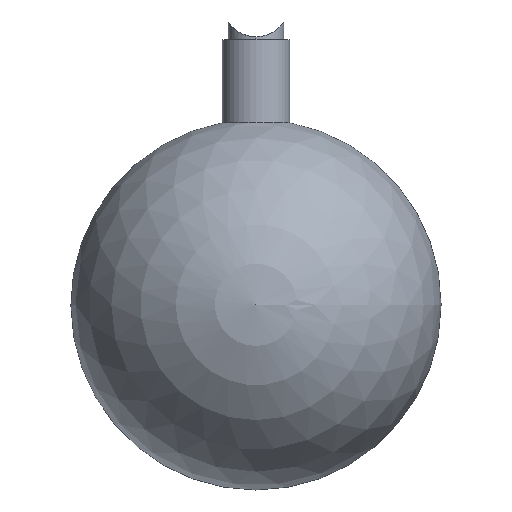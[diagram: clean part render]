
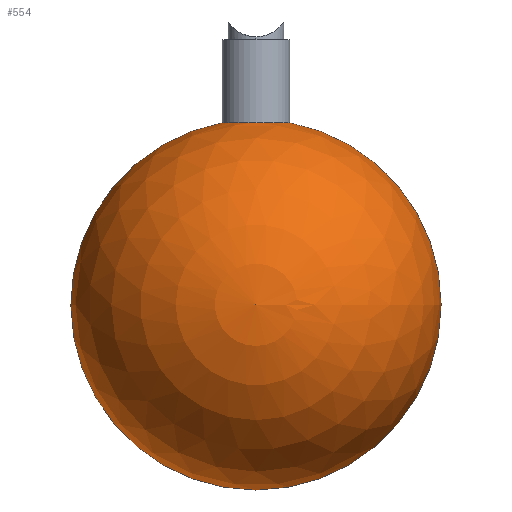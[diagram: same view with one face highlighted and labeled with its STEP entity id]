
A CAD part, left-side view. The second image highlights one B-rep face of the part: STEP entity #554.
In plain terms, the highlighted spherical face has radius 55 mm.
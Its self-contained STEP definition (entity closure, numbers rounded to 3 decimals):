
#6 = CARTESIAN_POINT ( 'NONE',  ( 0., 0., -67.583 ) ) ;
#12 = CARTESIAN_POINT ( 'NONE',  ( 0., 10., -13.5 ) ) ;
#42 = AXIS2_PLACEMENT_3D ( 'NONE', #375, #561, #179 ) ;
#43 = DIRECTION ( 'NONE',  ( 0., -1., 0. ) ) ;
#60 = DIRECTION ( 'NONE',  ( 0., 0., 1. ) ) ;
#74 = CARTESIAN_POINT ( 'NONE',  ( 0., -10., -13.5 ) ) ;
#177 = AXIS2_PLACEMENT_3D ( 'NONE', #308, #498, #60 ) ;
#179 = DIRECTION ( 'NONE',  ( 0., -1., 0. ) ) ;
#190 = CARTESIAN_POINT ( 'NONE',  ( 0., 0., -122.583 ) ) ;
#226 = EDGE_LOOP ( 'NONE', ( #448, #785, #488 ) ) ;
#239 = EDGE_CURVE ( 'NONE', #793, #803, #762, .T. ) ;
#287 = EDGE_CURVE ( 'NONE', #793, #346, #597, .T. ) ;
#308 = CARTESIAN_POINT ( 'NONE',  ( 0., 0., -67.583 ) ) ;
#319 = EDGE_CURVE ( 'NONE', #346, #803, #436, .T. ) ;
#346 = VERTEX_POINT ( 'NONE', #12 ) ;
#350 = AXIS2_PLACEMENT_3D ( 'NONE', #6, #507, #441 ) ;
#370 = AXIS2_PLACEMENT_3D ( 'NONE', #669, #725, #43 ) ;
#375 = CARTESIAN_POINT ( 'NONE',  ( 0., 0., -13.5 ) ) ;
#436 = CIRCLE ( 'NONE', #42, 10. ) ;
#441 = DIRECTION ( 'NONE',  ( 0., 1., 0. ) ) ;
#448 = ORIENTED_EDGE ( 'NONE', *, *, #287, .F. ) ;
#488 = ORIENTED_EDGE ( 'NONE', *, *, #319, .F. ) ;
#498 = DIRECTION ( 'NONE',  ( -1., 0., 0. ) ) ;
#507 = DIRECTION ( 'NONE',  ( 1., 0., 0. ) ) ;
#554 = ADVANCED_FACE ( 'NONE', ( #781 ), #726, .T. ) ;
#561 = DIRECTION ( 'NONE',  ( 0., 0., 1. ) ) ;
#597 = CIRCLE ( 'NONE', #350, 55. ) ;
#669 = CARTESIAN_POINT ( 'NONE',  ( 0., 0., -67.583 ) ) ;
#725 = DIRECTION ( 'NONE',  ( 1., 0., 0. ) ) ;
#726 = SPHERICAL_SURFACE ( 'NONE', #370, 55. ) ;
#762 = CIRCLE ( 'NONE', #177, 55. ) ;
#781 = FACE_OUTER_BOUND ( 'NONE', #226, .T. ) ;
#785 = ORIENTED_EDGE ( 'NONE', *, *, #239, .T. ) ;
#793 = VERTEX_POINT ( 'NONE', #190 ) ;
#803 = VERTEX_POINT ( 'NONE', #74 ) ;
